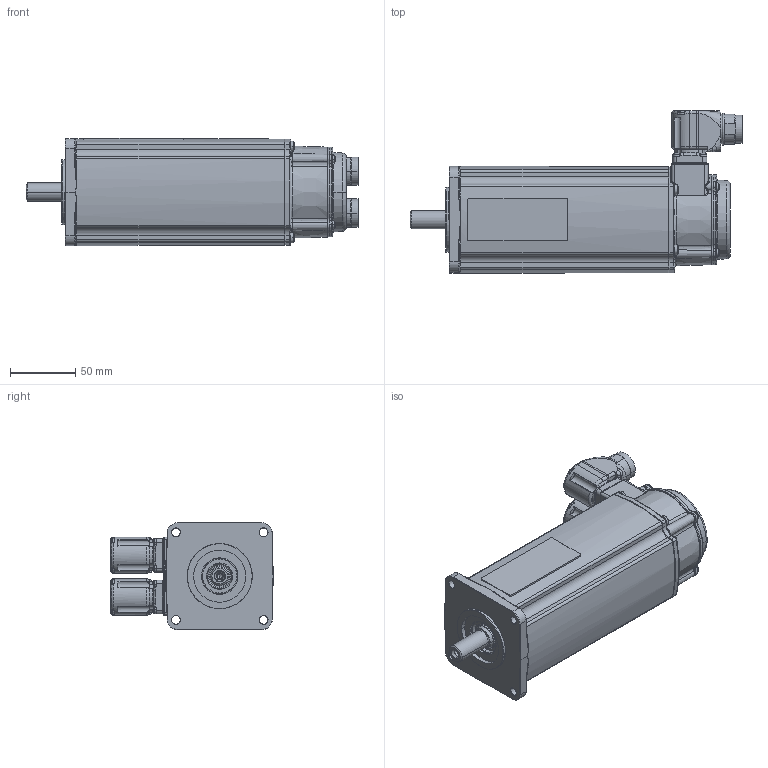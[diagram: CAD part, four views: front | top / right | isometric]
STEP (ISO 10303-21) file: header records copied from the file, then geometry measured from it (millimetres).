
FILE_DESCRIPTION((''),'2;1');
FILE_NAME('MSK040C-XXXX-NN-X1-UG1-NNNN_ASM','2008-11-24T',('wolfsaue'),('Rexroth_Indramat_GmbH'),'PRO/ENGINEER BY PARAMETRIC TECHNOLOGY CORPORATION, 2005110','PRO/ENGINEER BY PARAMETRIC TECHNOLOGY CORPORATION, 2005110','');
FILE_SCHEMA(('CONFIG_CONTROL_DESIGN'));
Length unit declared in the file: millimetre
Products named in the file (13): SKELETT-MSK040C; DB159772-GEHAEUSE-C1; DB160263-WELLE; DB162652-LAGERSCHILD; DB_35491-SCHRAUBE; DB163487-STECKER; DB_35256-SCHRAUBE; DB164715-STECKER; DB162217-DECKEL; DB_35255-SCHRAUBE; LAGERSCHILD-BG_ASM; DB_34669-DICHTRING; MSK040C-XXXX-NN-X1-UG1-NNNN_ASM
Assembly tree (25 placements, depth 3):
  MSK040C-XXXX-NN-X1-UG1-NNNN_ASM
    SKELETT-MSK040C
    DB159772-GEHAEUSE-C1
    DB160263-WELLE
    LAGERSCHILD-BG_ASM
      DB162652-LAGERSCHILD
      DB_35491-SCHRAUBE  x4
      DB163487-STECKER
      DB_35256-SCHRAUBE  x8
      DB164715-STECKER
      DB162217-DECKEL
      DB_35255-SCHRAUBE  x4
    DB_34669-DICHTRING
Bounding box: 254.5 x 124.5 x 82.2 mm (x, y, z)
Volume: 441738.1 mm3; surface area: 182016.3 mm2
Topology: 25 solids, 25 shells, 2449 faces, 5982 edges, 3677 vertices
Faces by surface type: cylinder 764, plane 759, torus 380, bspline 256, cone 218, sphere 72
Entity records: 72333 total; most frequent: CARTESIAN_POINT 25873, DIRECTION 10114, ORIENTED_EDGE 9568, EDGE_CURVE 4784, AXIS2_PLACEMENT_3D 4150, VERTEX_POINT 2897, CIRCLE 2354, EDGE_LOOP 2145
